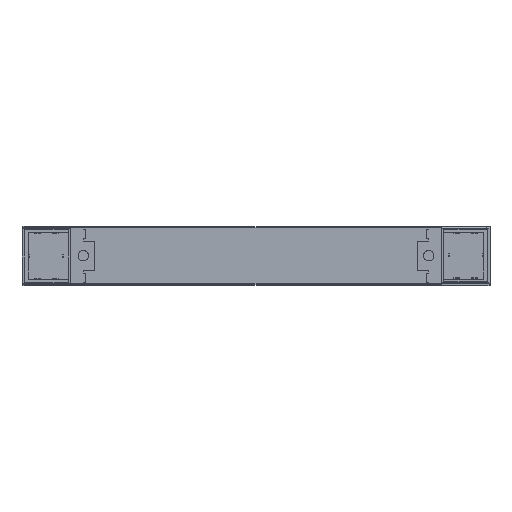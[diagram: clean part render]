
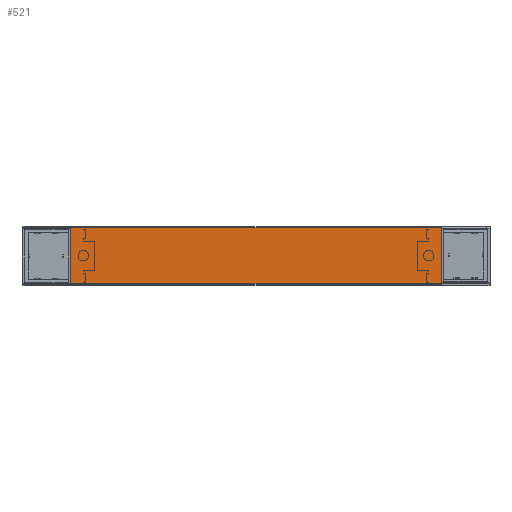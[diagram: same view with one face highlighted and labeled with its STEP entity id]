
A CAD part, top view. The second image highlights one B-rep face of the part: STEP entity #521.
In plain terms, the highlighted planar face has unit normal (0, 0, 1) as drawn and (0, 0, -1) by its records, which use the part's own axes.
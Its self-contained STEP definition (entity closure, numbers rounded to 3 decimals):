
#521 = ADVANCED_FACE( '', ( #1009 ), #1010, .F. );
#1009 = FACE_OUTER_BOUND( '', #1491, .T. );
#1010 = PLANE( '', #1492 );
#1491 = EDGE_LOOP( '', ( #2703, #2704, #2705, #2706 ) );
#1492 = AXIS2_PLACEMENT_3D( '', #2707, #2708, #2709 );
#2703 = ORIENTED_EDGE( '', *, *, #3530, .T. );
#2704 = ORIENTED_EDGE( '', *, *, #3453, .F. );
#2705 = ORIENTED_EDGE( '', *, *, #3313, .F. );
#2706 = ORIENTED_EDGE( '', *, *, #3478, .T. );
#2707 = CARTESIAN_POINT( '', ( 315.5, 0., 0. ) );
#2708 = DIRECTION( '', ( 0., 0., 1. ) );
#2709 = DIRECTION( '', ( 1., 0., 0. ) );
#3313 = EDGE_CURVE( '', #4061, #4063, #4064, .T. );
#3453 = EDGE_CURVE( '', #4063, #4270, #4271, .T. );
#3478 = EDGE_CURVE( '', #4061, #4300, #4302, .T. );
#3530 = EDGE_CURVE( '', #4300, #4270, #4373, .T. );
#4061 = VERTEX_POINT( '', #5115 );
#4063 = VERTEX_POINT( '', #5118 );
#4064 = LINE( '', #5119, #5120 );
#4270 = VERTEX_POINT( '', #5426 );
#4271 = LINE( '', #5427, #5428 );
#4300 = VERTEX_POINT( '', #5470 );
#4302 = LINE( '', #5473, #5474 );
#4373 = LINE( '', #5587, #5588 );
#5115 = CARTESIAN_POINT( '', ( 315.5, 0., 0. ) );
#5118 = CARTESIAN_POINT( '', ( 315.5, 98., 0. ) );
#5119 = CARTESIAN_POINT( '', ( 315.5, 0., 0. ) );
#5120 = VECTOR( '', #5973, 1000. );
#5426 = CARTESIAN_POINT( '', ( -315.5, 98., 0. ) );
#5427 = CARTESIAN_POINT( '', ( 315.5, 98., 0. ) );
#5428 = VECTOR( '', #6086, 1000. );
#5470 = CARTESIAN_POINT( '', ( -315.5, 0., 0. ) );
#5473 = CARTESIAN_POINT( '', ( 315.5, 0., 0. ) );
#5474 = VECTOR( '', #6104, 1000. );
#5587 = CARTESIAN_POINT( '', ( -315.5, 0., 0. ) );
#5588 = VECTOR( '', #6147, 1000. );
#5973 = DIRECTION( '', ( 0., 1., 0. ) );
#6086 = DIRECTION( '', ( -1., 0., 0. ) );
#6104 = DIRECTION( '', ( -1., 0., 0. ) );
#6147 = DIRECTION( '', ( 0., 1., 0. ) );
